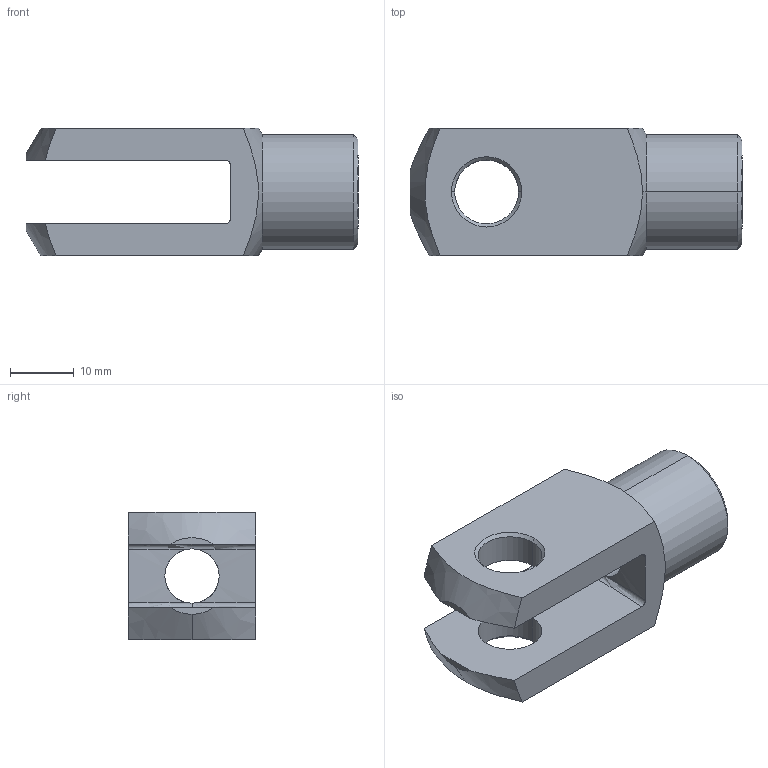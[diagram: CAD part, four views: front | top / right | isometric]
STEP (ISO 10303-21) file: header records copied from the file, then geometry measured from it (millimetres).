
FILE_DESCRIPTION (( 'STEP AP214' ), '1' );
FILE_NAME ('11.G1020.STEP', '2017-10-30T09:28:19', ( '' ), ( '' ), 'SwSTEP 2.0', 'SolidWorks 2016', '' );
FILE_SCHEMA (( 'AUTOMOTIVE_DESIGN' ));
Length unit declared in the file: millimetre
Products named in the file (1): 11.G1020
Bounding box: 52 x 20 x 20 mm (x, y, z)
Volume: 9694 mm3; surface area: 5292.7 mm2
Topology: 1 solids, 1 shells, 35 faces, 94 edges, 60 vertices
Faces by surface type: cone 13, cylinder 10, plane 9, torus 3
Entity records: 1419 total; most frequent: CARTESIAN_POINT 520, ORIENTED_EDGE 188, DIRECTION 173, EDGE_CURVE 94, AXIS2_PLACEMENT_3D 71, VERTEX_POINT 60, EDGE_LOOP 40, ADVANCED_FACE 35
